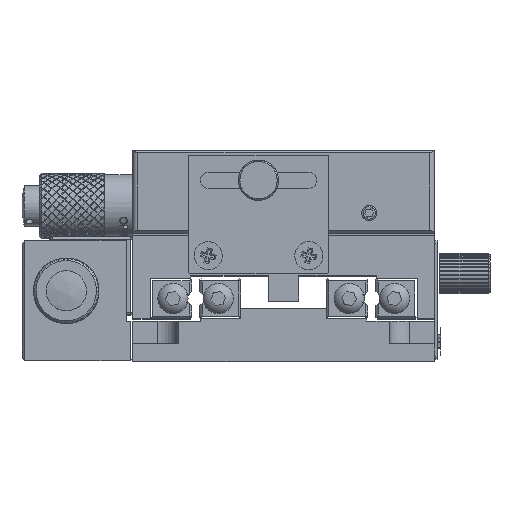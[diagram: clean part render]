
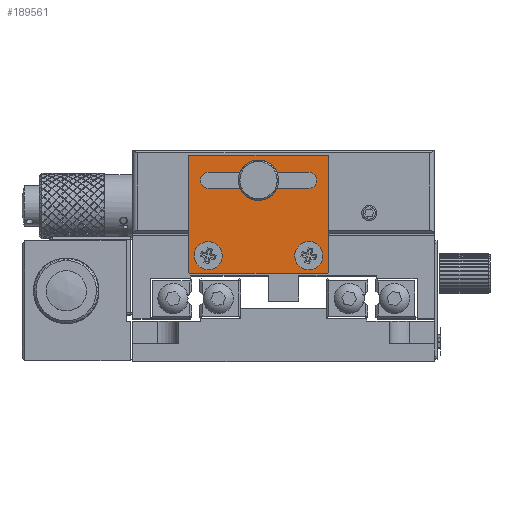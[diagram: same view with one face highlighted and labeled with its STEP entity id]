
A CAD part, top view. The second image highlights one B-rep face of the part: STEP entity #189561.
In plain terms, the highlighted planar face has unit normal (0, 0, 1).
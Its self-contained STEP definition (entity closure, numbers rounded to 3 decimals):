
#1265 = AXIS2_PLACEMENT_3D ( 'NONE', #195788, #195775, #195795 ) ;
#47732 = EDGE_LOOP ( 'NONE', ( #96751 ) ) ;
#47737 = EDGE_LOOP ( 'NONE', ( #96728 ) ) ;
#47738 = EDGE_LOOP ( 'NONE', ( #96729, #96731, #96733, #96735, #96736, #96738, #96740, #96742 ) ) ;
#82663 = EDGE_LOOP ( 'NONE', ( #96743, #96746, #96748, #96750 ) ) ;
#96728 = ORIENTED_EDGE ( 'NONE', *, *, #125369, .F. ) ;
#96729 = ORIENTED_EDGE ( 'NONE', *, *, #125370, .T. ) ;
#96731 = ORIENTED_EDGE ( 'NONE', *, *, #125371, .T. ) ;
#96733 = ORIENTED_EDGE ( 'NONE', *, *, #125372, .T. ) ;
#96735 = ORIENTED_EDGE ( 'NONE', *, *, #125373, .T. ) ;
#96736 = ORIENTED_EDGE ( 'NONE', *, *, #125374, .T. ) ;
#96738 = ORIENTED_EDGE ( 'NONE', *, *, #125375, .T. ) ;
#96740 = ORIENTED_EDGE ( 'NONE', *, *, #125376, .T. ) ;
#96742 = ORIENTED_EDGE ( 'NONE', *, *, #125377, .T. ) ;
#96743 = ORIENTED_EDGE ( 'NONE', *, *, #125368, .F. ) ;
#96746 = ORIENTED_EDGE ( 'NONE', *, *, #125365, .F. ) ;
#96748 = ORIENTED_EDGE ( 'NONE', *, *, #125362, .F. ) ;
#96750 = ORIENTED_EDGE ( 'NONE', *, *, #125359, .F. ) ;
#96751 = ORIENTED_EDGE ( 'NONE', *, *, #125378, .F. ) ;
#97116 = VERTEX_POINT ( 'NONE', #159280 ) ;
#97281 = VERTEX_POINT ( 'NONE', #159591 ) ;
#97285 = VERTEX_POINT ( 'NONE', #159599 ) ;
#97287 = VERTEX_POINT ( 'NONE', #159603 ) ;
#97289 = VERTEX_POINT ( 'NONE', #159607 ) ;
#97291 = VERTEX_POINT ( 'NONE', #159610 ) ;
#97299 = VERTEX_POINT ( 'NONE', #159624 ) ;
#97301 = VERTEX_POINT ( 'NONE', #159628 ) ;
#97303 = VERTEX_POINT ( 'NONE', #159632 ) ;
#97305 = VERTEX_POINT ( 'NONE', #159635 ) ;
#97307 = VERTEX_POINT ( 'NONE', #159639 ) ;
#97309 = VERTEX_POINT ( 'NONE', #159643 ) ;
#101079 = AXIS2_PLACEMENT_3D ( 'NONE', #246810, #246814, #246818 ) ;
#101087 = AXIS2_PLACEMENT_3D ( 'NONE', #246889, #246893, #246897 ) ;
#101092 = AXIS2_PLACEMENT_3D ( 'NONE', #246909, #246913, #246917 ) ;
#101097 = AXIS2_PLACEMENT_3D ( 'NONE', #246928, #246932, #246936 ) ;
#101101 = AXIS2_PLACEMENT_3D ( 'NONE', #246957, #246961, #246965 ) ;
#101107 = AXIS2_PLACEMENT_3D ( 'NONE', #246982, #246986, #246990 ) ;
#101112 = AXIS2_PLACEMENT_3D ( 'NONE', #247007, #247010, #247014 ) ;
#101117 = AXIS2_PLACEMENT_3D ( 'NONE', #247034, #247038, #247042 ) ;
#125359 = EDGE_CURVE ( 'NONE', #97116, #97285, #164247, .T. ) ;
#125362 = EDGE_CURVE ( 'NONE', #97285, #97287, #164251, .T. ) ;
#125365 = EDGE_CURVE ( 'NONE', #97287, #97291, #164263, .T. ) ;
#125368 = EDGE_CURVE ( 'NONE', #97291, #97116, #164283, .T. ) ;
#125369 = EDGE_CURVE ( 'NONE', #147681, #147681, #164285, .T. ) ;
#125370 = EDGE_CURVE ( 'NONE', #97281, #97289, #164289, .T. ) ;
#125371 = EDGE_CURVE ( 'NONE', #97289, #97299, #164271, .T. ) ;
#125372 = EDGE_CURVE ( 'NONE', #97299, #97301, #164287, .T. ) ;
#125373 = EDGE_CURVE ( 'NONE', #97301, #97303, #164291, .T. ) ;
#125374 = EDGE_CURVE ( 'NONE', #97303, #97305, #164292, .T. ) ;
#125375 = EDGE_CURVE ( 'NONE', #97305, #97307, #164294, .T. ) ;
#125376 = EDGE_CURVE ( 'NONE', #97307, #97309, #164295, .T. ) ;
#125377 = EDGE_CURVE ( 'NONE', #97309, #97281, #164297, .T. ) ;
#125378 = EDGE_CURVE ( 'NONE', #147685, #147685, #164298, .T. ) ;
#147681 = VERTEX_POINT ( 'NONE', #280976 ) ;
#147685 = VERTEX_POINT ( 'NONE', #280979 ) ;
#159280 = CARTESIAN_POINT ( 'NONE',  ( -199.801, -816.05, 308.178 ) ) ;
#159591 = CARTESIAN_POINT ( 'NONE',  ( -203.301, -809.45, 308.178 ) ) ;
#159599 = CARTESIAN_POINT ( 'NONE',  ( -179.801, -816.05, 308.178 ) ) ;
#159603 = CARTESIAN_POINT ( 'NONE',  ( -179.801, -812.85, 308.178 ) ) ;
#159607 = CARTESIAN_POINT ( 'NONE',  ( -203.801, -809.95, 308.178 ) ) ;
#159610 = CARTESIAN_POINT ( 'NONE',  ( -199.801, -812.85, 308.178 ) ) ;
#159624 = CARTESIAN_POINT ( 'NONE',  ( -203.801, -832.45, 308.178 ) ) ;
#159628 = CARTESIAN_POINT ( 'NONE',  ( -203.301, -832.95, 308.178 ) ) ;
#159632 = CARTESIAN_POINT ( 'NONE',  ( -176.301, -832.95, 308.178 ) ) ;
#159635 = CARTESIAN_POINT ( 'NONE',  ( -175.801, -832.45, 308.178 ) ) ;
#159639 = CARTESIAN_POINT ( 'NONE',  ( -175.801, -809.95, 308.178 ) ) ;
#159643 = CARTESIAN_POINT ( 'NONE',  ( -176.301, -809.45, 308.178 ) ) ;
#164247 = LINE ( 'NONE', #246709, #164257 ) ;
#164251 = CIRCLE ( 'NONE', #101079, 1.6 ) ;
#164257 = VECTOR ( 'NONE', #246756, 1000. ) ;
#164263 = LINE ( 'NONE', #246806, #164277 ) ;
#164271 = LINE ( 'NONE', #246924, #164290 ) ;
#164277 = VECTOR ( 'NONE', #246837, 1000. ) ;
#164283 = CIRCLE ( 'NONE', #101087, 1.6 ) ;
#164285 = CIRCLE ( 'NONE', #101092, 1.6 ) ;
#164287 = CIRCLE ( 'NONE', #101101, 0.5 ) ;
#164289 = CIRCLE ( 'NONE', #101097, 0.5 ) ;
#164290 = VECTOR ( 'NONE', #246901, 1000. ) ;
#164291 = LINE ( 'NONE', #246885, #164293 ) ;
#164292 = CIRCLE ( 'NONE', #101107, 0.5 ) ;
#164293 = VECTOR ( 'NONE', #246905, 1000. ) ;
#164294 = LINE ( 'NONE', #246946, #164296 ) ;
#164295 = CIRCLE ( 'NONE', #101112, 0.5 ) ;
#164296 = VECTOR ( 'NONE', #246953, 1000. ) ;
#164297 = LINE ( 'NONE', #246974, #164299 ) ;
#164298 = CIRCLE ( 'NONE', #101117, 1.6 ) ;
#164299 = VECTOR ( 'NONE', #246979, 1000. ) ;
#189561 = ADVANCED_FACE ( 'NONE', ( #281603, #281608, #281599, #281594 ), #195793, .F. ) ;
#195775 = DIRECTION ( 'NONE',  ( 0., 0., -1. ) ) ;
#195788 = CARTESIAN_POINT ( 'NONE',  ( -203.301, -809.95, 308.178 ) ) ;
#195793 = PLANE ( 'NONE',  #1265 ) ;
#195795 = DIRECTION ( 'NONE',  ( -1., 0., 0. ) ) ;
#246709 = CARTESIAN_POINT ( 'NONE',  ( -199.801, -816.05, 308.178 ) ) ;
#246756 = DIRECTION ( 'NONE',  ( 1., 0., 0. ) ) ;
#246806 = CARTESIAN_POINT ( 'NONE',  ( -199.801, -812.85, 308.178 ) ) ;
#246810 = CARTESIAN_POINT ( 'NONE',  ( -179.801, -814.45, 308.178 ) ) ;
#246814 = DIRECTION ( 'NONE',  ( 0., 0., 1. ) ) ;
#246818 = DIRECTION ( 'NONE',  ( 1., 0., 0. ) ) ;
#246837 = DIRECTION ( 'NONE',  ( -1., 0., 0. ) ) ;
#246885 = CARTESIAN_POINT ( 'NONE',  ( -176.301, -832.95, 308.178 ) ) ;
#246889 = CARTESIAN_POINT ( 'NONE',  ( -199.801, -814.45, 308.178 ) ) ;
#246893 = DIRECTION ( 'NONE',  ( 0., 0., 1. ) ) ;
#246897 = DIRECTION ( 'NONE',  ( 1., 0., 0. ) ) ;
#246901 = DIRECTION ( 'NONE',  ( 0., -1., 0. ) ) ;
#246905 = DIRECTION ( 'NONE',  ( 1., 0., 0. ) ) ;
#246909 = CARTESIAN_POINT ( 'NONE',  ( -199.801, -829.45, 308.178 ) ) ;
#246913 = DIRECTION ( 'NONE',  ( 0., 0., 1. ) ) ;
#246917 = DIRECTION ( 'NONE',  ( 1., 0., 0. ) ) ;
#246924 = CARTESIAN_POINT ( 'NONE',  ( -203.801, -809.95, 308.178 ) ) ;
#246928 = CARTESIAN_POINT ( 'NONE',  ( -203.301, -809.95, 308.178 ) ) ;
#246932 = DIRECTION ( 'NONE',  ( 0., 0., 1. ) ) ;
#246936 = DIRECTION ( 'NONE',  ( -1., 0., 0. ) ) ;
#246946 = CARTESIAN_POINT ( 'NONE',  ( -175.801, -809.95, 308.178 ) ) ;
#246953 = DIRECTION ( 'NONE',  ( 0., 1., 0. ) ) ;
#246957 = CARTESIAN_POINT ( 'NONE',  ( -203.301, -832.45, 308.178 ) ) ;
#246961 = DIRECTION ( 'NONE',  ( 0., 0., 1. ) ) ;
#246965 = DIRECTION ( 'NONE',  ( -1., 0., 0. ) ) ;
#246974 = CARTESIAN_POINT ( 'NONE',  ( -176.301, -809.45, 308.178 ) ) ;
#246979 = DIRECTION ( 'NONE',  ( -1., 0., 0. ) ) ;
#246982 = CARTESIAN_POINT ( 'NONE',  ( -176.301, -832.45, 308.178 ) ) ;
#246986 = DIRECTION ( 'NONE',  ( 0., 0., 1. ) ) ;
#246990 = DIRECTION ( 'NONE',  ( 1., 0., 0. ) ) ;
#247007 = CARTESIAN_POINT ( 'NONE',  ( -176.301, -809.95, 308.178 ) ) ;
#247010 = DIRECTION ( 'NONE',  ( 0., 0., 1. ) ) ;
#247014 = DIRECTION ( 'NONE',  ( 1., 0., 0. ) ) ;
#247034 = CARTESIAN_POINT ( 'NONE',  ( -179.801, -829.45, 308.178 ) ) ;
#247038 = DIRECTION ( 'NONE',  ( 0., 0., 1. ) ) ;
#247042 = DIRECTION ( 'NONE',  ( 1., 0., 0. ) ) ;
#280976 = CARTESIAN_POINT ( 'NONE',  ( -198.201, -829.45, 308.178 ) ) ;
#280979 = CARTESIAN_POINT ( 'NONE',  ( -178.201, -829.45, 308.178 ) ) ;
#281594 = FACE_BOUND ( 'NONE', #47732, .T. ) ;
#281599 = FACE_BOUND ( 'NONE', #82663, .T. ) ;
#281603 = FACE_BOUND ( 'NONE', #47737, .T. ) ;
#281608 = FACE_OUTER_BOUND ( 'NONE', #47738, .T. ) ;
